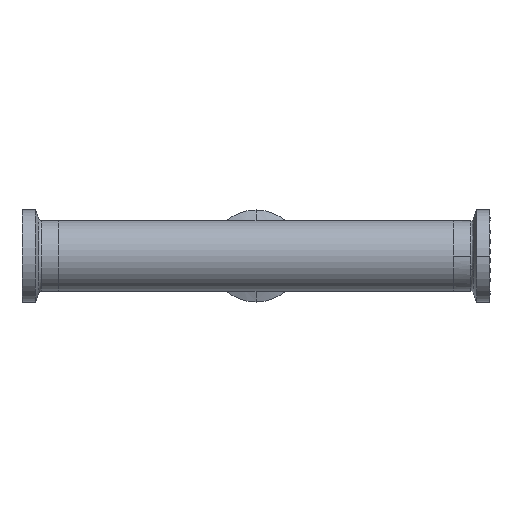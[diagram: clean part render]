
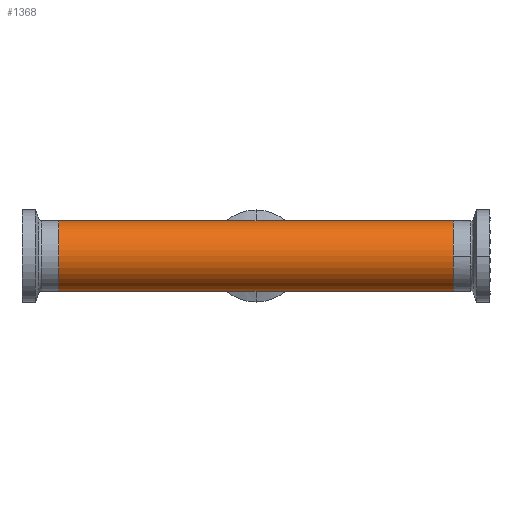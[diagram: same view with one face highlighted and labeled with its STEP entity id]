
A CAD part, front view. The second image highlights one B-rep face of the part: STEP entity #1368.
In plain terms, the highlighted cylindrical face has radius 9.525 mm (diameter 19.05 mm), a partial arc.
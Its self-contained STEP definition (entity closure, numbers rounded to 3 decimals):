
#85 = LINE ( 'NONE', #305, #1277 ) ;
#153 = EDGE_CURVE ( 'NONE', #2166, #332, #975, .T. ) ;
#178 = DIRECTION ( 'NONE',  ( 1., 0., 0. ) ) ;
#305 = CARTESIAN_POINT ( 'NONE',  ( 80.441, 0., -9.525 ) ) ;
#332 = VERTEX_POINT ( 'NONE', #2358 ) ;
#406 = EDGE_LOOP ( 'NONE', ( #1630, #1387, #1424, #1805 ) ) ;
#412 = CARTESIAN_POINT ( 'NONE',  ( 80.441, 0., 9.525 ) ) ;
#589 = DIRECTION ( 'NONE',  ( -1., 0., 0. ) ) ;
#794 = DIRECTION ( 'NONE',  ( 0., 0., 1. ) ) ;
#821 = CARTESIAN_POINT ( 'NONE',  ( 80.441, 0., 0. ) ) ;
#953 = AXIS2_PLACEMENT_3D ( 'NONE', #1928, #589, #2158 ) ;
#975 = LINE ( 'NONE', #412, #1495 ) ;
#998 = AXIS2_PLACEMENT_3D ( 'NONE', #1026, #178, #1403 ) ;
#1024 = VERTEX_POINT ( 'NONE', #1111 ) ;
#1026 = CARTESIAN_POINT ( 'NONE',  ( -53.5, 0., 0. ) ) ;
#1111 = CARTESIAN_POINT ( 'NONE',  ( -53.5, 0., -9.525 ) ) ;
#1277 = VECTOR ( 'NONE', #1869, 1000. ) ;
#1368 = ADVANCED_FACE ( 'NONE', ( #2391 ), #2323, .T. ) ;
#1387 = ORIENTED_EDGE ( 'NONE', *, *, #2134, .T. ) ;
#1403 = DIRECTION ( 'NONE',  ( 0., 0., 1. ) ) ;
#1424 = ORIENTED_EDGE ( 'NONE', *, *, #153, .T. ) ;
#1495 = VECTOR ( 'NONE', #1533, 1000. ) ;
#1533 = DIRECTION ( 'NONE',  ( -1., 0., 0. ) ) ;
#1543 = CIRCLE ( 'NONE', #998, 9.525 ) ;
#1556 = EDGE_CURVE ( 'NONE', #332, #1024, #1543, .T. ) ;
#1630 = ORIENTED_EDGE ( 'NONE', *, *, #2441, .F. ) ;
#1805 = ORIENTED_EDGE ( 'NONE', *, *, #1556, .T. ) ;
#1869 = DIRECTION ( 'NONE',  ( -1., 0., 0. ) ) ;
#1928 = CARTESIAN_POINT ( 'NONE',  ( 53.5, 0., 0. ) ) ;
#2073 = CIRCLE ( 'NONE', #953, 9.525 ) ;
#2100 = AXIS2_PLACEMENT_3D ( 'NONE', #821, #2129, #794 ) ;
#2129 = DIRECTION ( 'NONE',  ( -1., 0., 0. ) ) ;
#2134 = EDGE_CURVE ( 'NONE', #2768, #2166, #2073, .T. ) ;
#2158 = DIRECTION ( 'NONE',  ( 0., 0., 1. ) ) ;
#2166 = VERTEX_POINT ( 'NONE', #2801 ) ;
#2323 = CYLINDRICAL_SURFACE ( 'NONE', #2100, 9.525 ) ;
#2358 = CARTESIAN_POINT ( 'NONE',  ( -53.5, 0., 9.525 ) ) ;
#2391 = FACE_OUTER_BOUND ( 'NONE', #406, .T. ) ;
#2441 = EDGE_CURVE ( 'NONE', #2768, #1024, #85, .T. ) ;
#2505 = CARTESIAN_POINT ( 'NONE',  ( 53.5, 0., -9.525 ) ) ;
#2768 = VERTEX_POINT ( 'NONE', #2505 ) ;
#2801 = CARTESIAN_POINT ( 'NONE',  ( 53.5, 0., 9.525 ) ) ;
